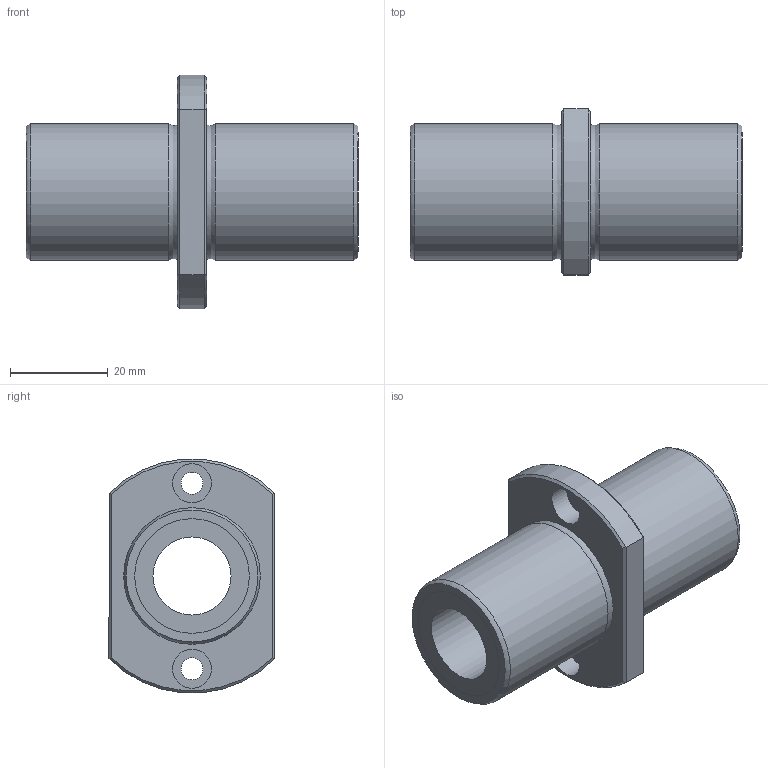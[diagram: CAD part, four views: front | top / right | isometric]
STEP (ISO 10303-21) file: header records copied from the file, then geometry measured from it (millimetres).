
FILE_DESCRIPTION((''),'2;1');
FILE_NAME('D:\製品 (図面)\カタログ用3D\リニアベアリング関連\STEP形式\LFDTC\LFDTC16.stp','2010-06-04T08:40:04',('Tsuchiya'),(''),'Autodesk Inventor 10','Autodesk Inventor 10','');
FILE_SCHEMA(('AUTOMOTIVE_DESIGN { 1 0 10303 214 1 1 1 1 }'));
Length unit declared in the file: millimetre
Products named in the file (1): LFDTC16
Bounding box: 68 x 34 x 47.82 mm (x, y, z)
Volume: 32704.1 mm3; surface area: 12403.5 mm2
Topology: 1 solids, 1 shells, 33 faces, 63 edges, 38 vertices
Faces by surface type: plane 14, cylinder 11, cone 4, torus 2, bspline 2
Full cylindrical faces by diameter (mm): 4.5 x2, 8 x2, 16 x1, 23.5 x2, 28 x2
Entity records: 925 total; most frequent: CARTESIAN_POINT 270, DIRECTION 136, ORIENTED_EDGE 100, AXIS2_PLACEMENT_3D 62, EDGE_LOOP 58, EDGE_CURVE 50, VERTEX_POINT 38, FACE_OUTER_BOUND 33
